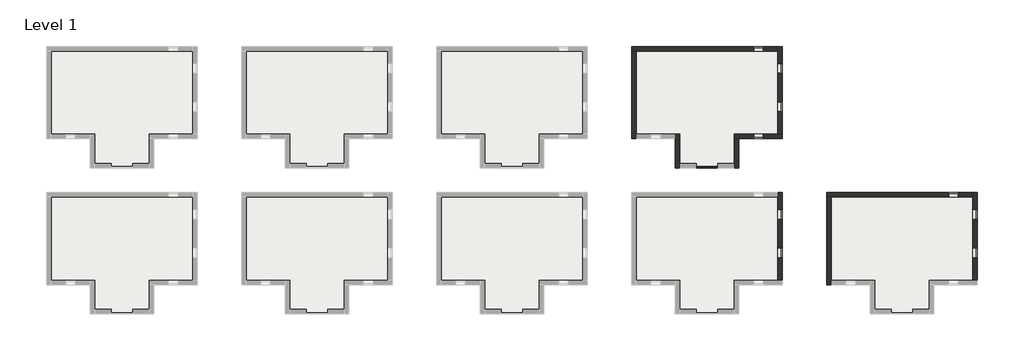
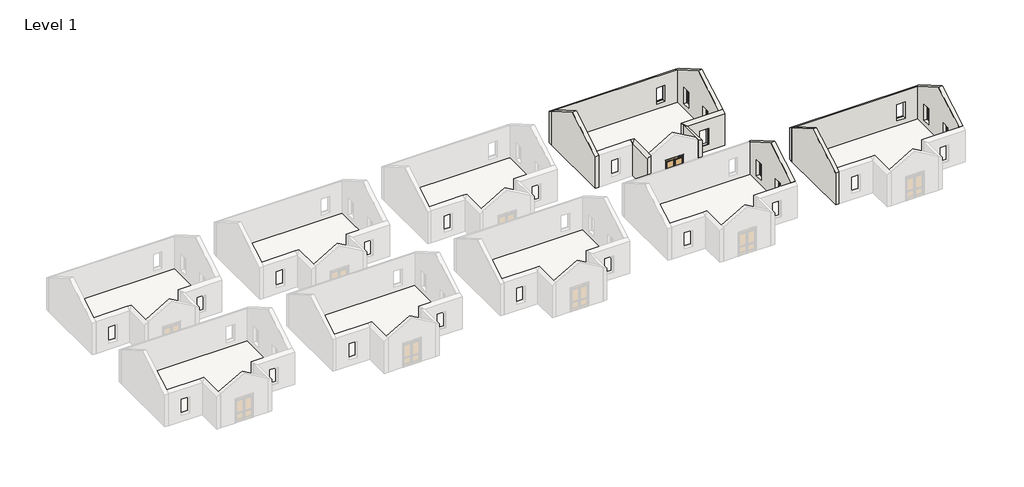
# One storey, part 4 of 4: 10 walls, 9 slabs, 1 door.
"""IFC4 building model written with IfcOpenShell, lengths in millimetres."""

from ifc_helpers import new_model, si_unit, origin, place, context, project, spatial, faceted_brep, transform, mapped, element, save
from components import non_impact_rated_medium_stile_77e616cb

model = new_model("IFC4")

# Units and contexts
model_context = context("Model", 3, world=origin())
ifc_project = project(units=[si_unit("LENGTHUNIT", "METRE", prefix="MILLI")], contexts=[model_context])

# Site, building, storey
site = spatial("IfcSite", under=ifc_project)
building = spatial("IfcBuilding", under=site)
storey = spatial("IfcBuildingStorey", under=building, Name="Level 1", Elevation=0.0)

# Door
placement = place(None, origin())
non_impact_rated_medium_stile_shape = non_impact_rated_medium_stile_77e616cb(model_context)
element("IfcDoor", 1, ObjectType="Door_Sliding_AssaAbloy_Resilience-R128-FBO-Single : Non Impact Rated - Medium Stile", at=placement, inside=storey, context=model_context, shape_type="MappedRepresentation", body=[
    mapped(non_impact_rated_medium_stile_shape, transform((39060.8760445, 8608.1209288, 0.0), x_axis=(1.0, 0.0, 0.0), y_axis=(0.0, 1.0, 0.0), z_axis=(0.0, 0.0, 1.0))),
])

# Slabs
element("IfcSlab", 2, ObjectType="Generic 150mm", at=placement, inside=storey, context=model_context, shape_type="Brep", body=[
    faceted_brep([(-11741.2332588, 4810.4798849, 0.0), (-11741.2332588, -4024.5201151, 0.0), (-11741.2332588, -4319.5201151, 0.0), (-16201.2332588, -4319.5201151, 0.0), (-16201.2332588, -4484.5201151, 0.0), (-16201.2332588, -7319.5201151, 0.0), (-22411.2332588, -7319.5201151, 0.0), (-22411.2332588, -4319.5201151, 0.0), (-26576.2332588, -4319.5201151, 0.0), (-26871.2332588, -4319.5201151, 0.0), (-26871.2332588, 4515.4798849, 0.0), (-26871.2332588, 4810.4798849, 0.0), (-12036.2332588, 4810.4798849, 0.0), (-11741.2332588, 4810.4798849, 150.0), (-12036.2332588, 4810.4798849, 150.0), (-26871.2332588, 4810.4798849, 150.0), (-26871.2332588, 4515.4798849, 150.0), (-26871.2332588, -4319.5201151, 150.0), (-26576.2332588, -4319.5201151, 150.0), (-22411.2332588, -4319.5201151, 150.0), (-22411.2332588, -7319.5201151, 150.0), (-16201.2332588, -7319.5201151, 150.0), (-16201.2332588, -4484.5201151, 150.0), (-16201.2332588, -4319.5201151, 150.0), (-11741.2332588, -4319.5201151, 150.0), (-11741.2332588, -4024.5201151, 150.0)], [[[0, 1, 2, 3, 4, 5, 6, 7, 8, 9, 10, 11, 12]], [[13, 14, 15, 16, 17, 18, 19, 20, 21, 22, 23, 24, 25]], [[2, 1, 0, 13, 25, 24]], [[3, 2, 24, 23]], [[11, 10, 9, 17, 16, 15]], [[0, 12, 11, 15, 14, 13]], [[5, 4, 3, 23, 22, 21]], [[6, 5, 21, 20]], [[7, 6, 20, 19]], [[9, 8, 7, 19, 18, 17]]]),
])
element("IfcSlab", 3, ObjectType="Generic 150mm", at=placement, inside=storey, context=model_context, shape_type="Brep", body=[
    faceted_brep([(8258.7667412, 4810.4798849, 0.0), (8258.7667412, -4024.5201151, 0.0), (8258.7667412, -4319.5201151, 0.0), (3798.7667412, -4319.5201151, 0.0), (3798.7667412, -4484.5201151, 0.0), (3798.7667412, -7319.5201151, 0.0), (-2411.2332588, -7319.5201151, 0.0), (-2411.2332588, -4319.5201151, 0.0), (-6576.2332588, -4319.5201151, 0.0), (-6871.2332588, -4319.5201151, 0.0), (-6871.2332588, 4515.4798849, 0.0), (-6871.2332588, 4810.4798849, 0.0), (7963.7667412, 4810.4798849, 0.0), (8258.7667412, 4810.4798849, 150.0), (7963.7667412, 4810.4798849, 150.0), (-6871.2332588, 4810.4798849, 150.0), (-6871.2332588, 4515.4798849, 150.0), (-6871.2332588, -4319.5201151, 150.0), (-6576.2332588, -4319.5201151, 150.0), (-2411.2332588, -4319.5201151, 150.0), (-2411.2332588, -7319.5201151, 150.0), (3798.7667412, -7319.5201151, 150.0), (3798.7667412, -4484.5201151, 150.0), (3798.7667412, -4319.5201151, 150.0), (8258.7667412, -4319.5201151, 150.0), (8258.7667412, -4024.5201151, 150.0)], [[[0, 1, 2, 3, 4, 5, 6, 7, 8, 9, 10, 11, 12]], [[13, 14, 15, 16, 17, 18, 19, 20, 21, 22, 23, 24, 25]], [[2, 1, 0, 13, 25, 24]], [[3, 2, 24, 23]], [[11, 10, 9, 17, 16, 15]], [[0, 12, 11, 15, 14, 13]], [[5, 4, 3, 23, 22, 21]], [[6, 5, 21, 20]], [[7, 6, 20, 19]], [[9, 8, 7, 19, 18, 17]]]),
])
element("IfcSlab", 4, ObjectType="Generic 150mm", at=placement, inside=storey, context=model_context, shape_type="Brep", body=[
    faceted_brep([(28258.7667412, 4810.4798849, 0.0), (28258.7667412, -4024.5201151, 0.0), (28258.7667412, -4319.5201151, 0.0), (23798.7667412, -4319.5201151, 0.0), (23798.7667412, -4484.5201151, 0.0), (23798.7667412, -7319.5201151, 0.0), (17588.7667412, -7319.5201151, 0.0), (17588.7667412, -4319.5201151, 0.0), (13423.7667412, -4319.5201151, 0.0), (13128.7667412, -4319.5201151, 0.0), (13128.7667412, 4515.4798849, 0.0), (13128.7667412, 4810.4798849, 0.0), (27963.7667412, 4810.4798849, 0.0), (28258.7667412, 4810.4798849, 150.0), (27963.7667412, 4810.4798849, 150.0), (13128.7667412, 4810.4798849, 150.0), (13128.7667412, 4515.4798849, 150.0), (13128.7667412, -4319.5201151, 150.0), (13423.7667412, -4319.5201151, 150.0), (17588.7667412, -4319.5201151, 150.0), (17588.7667412, -7319.5201151, 150.0), (23798.7667412, -7319.5201151, 150.0), (23798.7667412, -4484.5201151, 150.0), (23798.7667412, -4319.5201151, 150.0), (28258.7667412, -4319.5201151, 150.0), (28258.7667412, -4024.5201151, 150.0)], [[[0, 1, 2, 3, 4, 5, 6, 7, 8, 9, 10, 11, 12]], [[13, 14, 15, 16, 17, 18, 19, 20, 21, 22, 23, 24, 25]], [[2, 1, 0, 13, 25, 24]], [[3, 2, 24, 23]], [[11, 10, 9, 17, 16, 15]], [[0, 12, 11, 15, 14, 13]], [[5, 4, 3, 23, 22, 21]], [[6, 5, 21, 20]], [[7, 6, 20, 19]], [[9, 8, 7, 19, 18, 17]]]),
])
element("IfcSlab", 5, ObjectType="Generic 150mm", at=placement, inside=storey, context=model_context, shape_type="Brep", body=[
    faceted_brep([(48258.7667412, 4810.4798849, 0.0), (48258.7667412, -4024.5201151, 0.0), (48258.7667412, -4319.5201151, 0.0), (43798.7667412, -4319.5201151, 0.0), (43798.7667412, -4484.5201151, 0.0), (43798.7667412, -7319.5201151, 0.0), (37588.7667412, -7319.5201151, 0.0), (37588.7667412, -4319.5201151, 0.0), (33423.7667412, -4319.5201151, 0.0), (33128.7667412, -4319.5201151, 0.0), (33128.7667412, 4515.4798849, 0.0), (33128.7667412, 4810.4798849, 0.0), (47963.7667412, 4810.4798849, 0.0), (48258.7667412, 4810.4798849, 150.0), (47963.7667412, 4810.4798849, 150.0), (33128.7667412, 4810.4798849, 150.0), (33128.7667412, 4515.4798849, 150.0), (33128.7667412, -4319.5201151, 150.0), (33423.7667412, -4319.5201151, 150.0), (37588.7667412, -4319.5201151, 150.0), (37588.7667412, -7319.5201151, 150.0), (43798.7667412, -7319.5201151, 150.0), (43798.7667412, -4484.5201151, 150.0), (43798.7667412, -4319.5201151, 150.0), (48258.7667412, -4319.5201151, 150.0), (48258.7667412, -4024.5201151, 150.0)], [[[0, 1, 2, 3, 4, 5, 6, 7, 8, 9, 10, 11, 12]], [[13, 14, 15, 16, 17, 18, 19, 20, 21, 22, 23, 24, 25]], [[2, 1, 0, 13, 25, 24]], [[3, 2, 24, 23]], [[11, 10, 9, 17, 16, 15]], [[0, 12, 11, 15, 14, 13]], [[5, 4, 3, 23, 22, 21]], [[6, 5, 21, 20]], [[7, 6, 20, 19]], [[9, 8, 7, 19, 18, 17]]]),
])
element("IfcSlab", 6, ObjectType="Generic 150mm", at=placement, inside=storey, context=model_context, shape_type="Brep", body=[
    faceted_brep([(68258.7667412, 4810.4798849, 0.0), (68258.7667412, -4024.5201151, 0.0), (68258.7667412, -4319.5201151, 0.0), (63798.7667412, -4319.5201151, 0.0), (63798.7667412, -4484.5201151, 0.0), (63798.7667412, -7319.5201151, 0.0), (57588.7667412, -7319.5201151, 0.0), (57588.7667412, -4319.5201151, 0.0), (53423.7667412, -4319.5201151, 0.0), (53128.7667412, -4319.5201151, 0.0), (53128.7667412, 4515.4798849, 0.0), (53128.7667412, 4810.4798849, 0.0), (67963.7667412, 4810.4798849, 0.0), (68258.7667412, 4810.4798849, 150.0), (67963.7667412, 4810.4798849, 150.0), (53128.7667412, 4810.4798849, 150.0), (53128.7667412, 4515.4798849, 150.0), (53128.7667412, -4319.5201151, 150.0), (53423.7667412, -4319.5201151, 150.0), (57588.7667412, -4319.5201151, 150.0), (57588.7667412, -7319.5201151, 150.0), (63798.7667412, -7319.5201151, 150.0), (63798.7667412, -4484.5201151, 150.0), (63798.7667412, -4319.5201151, 150.0), (68258.7667412, -4319.5201151, 150.0), (68258.7667412, -4024.5201151, 150.0)], [[[0, 1, 2, 3, 4, 5, 6, 7, 8, 9, 10, 11, 12]], [[13, 14, 15, 16, 17, 18, 19, 20, 21, 22, 23, 24, 25]], [[2, 1, 0, 13, 25, 24]], [[3, 2, 24, 23]], [[11, 10, 9, 17, 16, 15]], [[0, 12, 11, 15, 14, 13]], [[5, 4, 3, 23, 22, 21]], [[6, 5, 21, 20]], [[7, 6, 20, 19]], [[9, 8, 7, 19, 18, 17]]]),
])
element("IfcSlab", 7, ObjectType="Generic 150mm", at=placement, inside=storey, context=model_context, shape_type="Brep", body=[
    faceted_brep([(-11741.2332588, 19810.4798849, 0.0), (-11741.2332588, 10975.4798849, 0.0), (-11741.2332588, 10680.4798849, 0.0), (-16201.2332588, 10680.4798849, 0.0), (-16201.2332588, 10515.4798849, 0.0), (-16201.2332588, 7680.4798849, 0.0), (-22411.2332588, 7680.4798849, 0.0), (-22411.2332588, 10680.4798849, 0.0), (-26576.2332588, 10680.4798849, 0.0), (-26871.2332588, 10680.4798849, 0.0), (-26871.2332588, 19515.4798849, 0.0), (-26871.2332588, 19810.4798849, 0.0), (-12036.2332588, 19810.4798849, 0.0), (-11741.2332588, 19810.4798849, 150.0), (-12036.2332588, 19810.4798849, 150.0), (-26871.2332588, 19810.4798849, 150.0), (-26871.2332588, 19515.4798849, 150.0), (-26871.2332588, 10680.4798849, 150.0), (-26576.2332588, 10680.4798849, 150.0), (-22411.2332588, 10680.4798849, 150.0), (-22411.2332588, 7680.4798849, 150.0), (-16201.2332588, 7680.4798849, 150.0), (-16201.2332588, 10515.4798849, 150.0), (-16201.2332588, 10680.4798849, 150.0), (-11741.2332588, 10680.4798849, 150.0), (-11741.2332588, 10975.4798849, 150.0)], [[[0, 1, 2, 3, 4, 5, 6, 7, 8, 9, 10, 11, 12]], [[13, 14, 15, 16, 17, 18, 19, 20, 21, 22, 23, 24, 25]], [[2, 1, 0, 13, 25, 24]], [[3, 2, 24, 23]], [[11, 10, 9, 17, 16, 15]], [[0, 12, 11, 15, 14, 13]], [[5, 4, 3, 23, 22, 21]], [[6, 5, 21, 20]], [[7, 6, 20, 19]], [[9, 8, 7, 19, 18, 17]]]),
])
element("IfcSlab", 8, ObjectType="Generic 150mm", at=placement, inside=storey, context=model_context, shape_type="Brep", body=[
    faceted_brep([(8258.7667412, 19810.4798849, 0.0), (8258.7667412, 10975.4798849, 0.0), (8258.7667412, 10680.4798849, 0.0), (3798.7667412, 10680.4798849, 0.0), (3798.7667412, 10515.4798849, 0.0), (3798.7667412, 7680.4798849, 0.0), (-2411.2332588, 7680.4798849, 0.0), (-2411.2332588, 10680.4798849, 0.0), (-6576.2332588, 10680.4798849, 0.0), (-6871.2332588, 10680.4798849, 0.0), (-6871.2332588, 19515.4798849, 0.0), (-6871.2332588, 19810.4798849, 0.0), (7963.7667412, 19810.4798849, 0.0), (8258.7667412, 19810.4798849, 150.0), (7963.7667412, 19810.4798849, 150.0), (-6871.2332588, 19810.4798849, 150.0), (-6871.2332588, 19515.4798849, 150.0), (-6871.2332588, 10680.4798849, 150.0), (-6576.2332588, 10680.4798849, 150.0), (-2411.2332588, 10680.4798849, 150.0), (-2411.2332588, 7680.4798849, 150.0), (3798.7667412, 7680.4798849, 150.0), (3798.7667412, 10515.4798849, 150.0), (3798.7667412, 10680.4798849, 150.0), (8258.7667412, 10680.4798849, 150.0), (8258.7667412, 10975.4798849, 150.0)], [[[0, 1, 2, 3, 4, 5, 6, 7, 8, 9, 10, 11, 12]], [[13, 14, 15, 16, 17, 18, 19, 20, 21, 22, 23, 24, 25]], [[2, 1, 0, 13, 25, 24]], [[3, 2, 24, 23]], [[11, 10, 9, 17, 16, 15]], [[0, 12, 11, 15, 14, 13]], [[5, 4, 3, 23, 22, 21]], [[6, 5, 21, 20]], [[7, 6, 20, 19]], [[9, 8, 7, 19, 18, 17]]]),
])
element("IfcSlab", 9, ObjectType="Generic 150mm", at=placement, inside=storey, context=model_context, shape_type="Brep", body=[
    faceted_brep([(28258.7667412, 19810.4798849, 0.0), (28258.7667412, 10975.4798849, 0.0), (28258.7667412, 10680.4798849, 0.0), (23798.7667412, 10680.4798849, 0.0), (23798.7667412, 10515.4798849, 0.0), (23798.7667412, 7680.4798849, 0.0), (17588.7667412, 7680.4798849, 0.0), (17588.7667412, 10680.4798849, 0.0), (13423.7667412, 10680.4798849, 0.0), (13128.7667412, 10680.4798849, 0.0), (13128.7667412, 19515.4798849, 0.0), (13128.7667412, 19810.4798849, 0.0), (27963.7667412, 19810.4798849, 0.0), (28258.7667412, 19810.4798849, 150.0), (27963.7667412, 19810.4798849, 150.0), (13128.7667412, 19810.4798849, 150.0), (13128.7667412, 19515.4798849, 150.0), (13128.7667412, 10680.4798849, 150.0), (13423.7667412, 10680.4798849, 150.0), (17588.7667412, 10680.4798849, 150.0), (17588.7667412, 7680.4798849, 150.0), (23798.7667412, 7680.4798849, 150.0), (23798.7667412, 10515.4798849, 150.0), (23798.7667412, 10680.4798849, 150.0), (28258.7667412, 10680.4798849, 150.0), (28258.7667412, 10975.4798849, 150.0)], [[[0, 1, 2, 3, 4, 5, 6, 7, 8, 9, 10, 11, 12]], [[13, 14, 15, 16, 17, 18, 19, 20, 21, 22, 23, 24, 25]], [[2, 1, 0, 13, 25, 24]], [[3, 2, 24, 23]], [[11, 10, 9, 17, 16, 15]], [[0, 12, 11, 15, 14, 13]], [[5, 4, 3, 23, 22, 21]], [[6, 5, 21, 20]], [[7, 6, 20, 19]], [[9, 8, 7, 19, 18, 17]]]),
])
element("IfcSlab", 10, ObjectType="Generic 150mm", at=placement, inside=storey, context=model_context, shape_type="Brep", body=[
    faceted_brep([(48258.7667412, 19810.4798849, 0.0), (48258.7667412, 10975.4798849, 0.0), (48258.7667412, 10680.4798849, 0.0), (43798.7667412, 10680.4798849, 0.0), (43798.7667412, 10515.4798849, 0.0), (43798.7667412, 7680.4798849, 0.0), (37588.7667412, 7680.4798849, 0.0), (37588.7667412, 10680.4798849, 0.0), (33423.7667412, 10680.4798849, 0.0), (33128.7667412, 10680.4798849, 0.0), (33128.7667412, 19515.4798849, 0.0), (33128.7667412, 19810.4798849, 0.0), (47963.7667412, 19810.4798849, 0.0), (48258.7667412, 19810.4798849, 150.0), (47963.7667412, 19810.4798849, 150.0), (33128.7667412, 19810.4798849, 150.0), (33128.7667412, 19515.4798849, 150.0), (33128.7667412, 10680.4798849, 150.0), (33423.7667412, 10680.4798849, 150.0), (37588.7667412, 10680.4798849, 150.0), (37588.7667412, 7680.4798849, 150.0), (43798.7667412, 7680.4798849, 150.0), (43798.7667412, 10515.4798849, 150.0), (43798.7667412, 10680.4798849, 150.0), (48258.7667412, 10680.4798849, 150.0), (48258.7667412, 10975.4798849, 150.0)], [[[0, 1, 2, 3, 4, 5, 6, 7, 8, 9, 10, 11, 12]], [[13, 14, 15, 16, 17, 18, 19, 20, 21, 22, 23, 24, 25]], [[2, 1, 0, 13, 25, 24]], [[3, 2, 24, 23]], [[11, 10, 9, 17, 16, 15]], [[0, 12, 11, 15, 14, 13]], [[5, 4, 3, 23, 22, 21]], [[6, 5, 21, 20]], [[7, 6, 20, 19]], [[9, 8, 7, 19, 18, 17]]]),
])

# Walls
element("IfcWall", 11, ObjectType="Exterior - Block on Mtl. Stud", at=placement, inside=storey, context=model_context, shape_type="Brep", body=[
    faceted_brep([(47963.7667412, 4975.4798849, 4000.0), (47963.7667412, 4975.4798849, 0.0), (47963.7667412, 4810.4798849, 0.0), (47963.7667412, 4810.4798849, 150.0), (47963.7667412, 4515.4798849, 150.0), (47963.7667412, -4024.5201151, 150.0), (47963.7667412, -4024.5201151, 4265.5811238), (47963.7667412, 245.4798849, 6730.8667733), (47963.7667412, 4515.4798849, 4265.5811238), (47963.7667412, -724.5201151, 2800.0), (47963.7667412, -1724.5201151, 2800.0), (47963.7667412, -1724.5201151, 770.0), (47963.7667412, -724.5201151, 770.0), (47963.7667412, 3215.4798849, 2800.0), (47963.7667412, 2215.4798849, 2800.0), (47963.7667412, 2215.4798849, 770.0), (47963.7667412, 3215.4798849, 770.0), (48423.7667412, -4024.5201151, 0.0), (48423.7667412, 4975.4798849, 0.0), (48423.7667412, 4975.4798849, 4000.0), (48423.7667412, 245.4798849, 6730.8667733), (48423.7667412, -4024.5201151, 4265.5811238), (48423.7667412, -1743.5194771, 2832.0), (48423.7667412, -705.5207531, 2832.0), (48423.7667412, -705.5207531, 800.0), (48423.7667412, -1743.5194771, 800.0), (48423.7667412, 2196.4805229, 2832.0), (48423.7667412, 3234.4792469, 2832.0), (48423.7667412, 3234.4792469, 800.0), (48423.7667412, 2196.4805229, 800.0), (48258.7667412, -4024.5201151, 0.0), (48258.7667412, 4810.4798849, 0.0), (48258.7667412, -4024.5201151, 150.0), (48303.7667412, -724.5201151, 2800.0), (48303.7667412, -1724.5201151, 2800.0), (48323.7667412, -1724.5201151, 770.0), (48323.7667412, -724.5201151, 770.0), (48303.7667412, -1724.5201151, 800.0), (48323.7667412, -1724.5201151, 800.0), (48323.7667412, -724.5201151, 800.0), (48303.7667412, -724.5201151, 800.0), (48303.7667412, -692.5201151, 2832.0), (48316.7667412, -692.5201151, 2832.0), (48316.7667412, -705.5207531, 2832.0), (48316.7667412, -1743.5194771, 2832.0), (48316.7667412, -1756.5201151, 2832.0), (48303.7667412, -1756.5201151, 2832.0), (48303.7667412, -1756.5201151, 800.0), (48316.7667412, -1756.5201151, 800.0), (48316.7667412, -1743.5194771, 800.0), (48316.7667412, -705.5207531, 800.0), (48316.7667412, -692.5201151, 800.0), (48303.7667412, -692.5201151, 800.0), (48303.7667412, 3215.4798849, 2800.0), (48303.7667412, 2215.4798849, 2800.0), (48323.7667412, 2215.4798849, 770.0), (48323.7667412, 3215.4798849, 770.0), (48303.7667412, 2215.4798849, 800.0), (48323.7667412, 2215.4798849, 800.0), (48323.7667412, 3215.4798849, 800.0), (48303.7667412, 3215.4798849, 800.0), (48303.7667412, 3247.4798849, 2832.0), (48316.7667412, 3247.4798849, 2832.0), (48316.7667412, 3234.4792469, 2832.0), (48316.7667412, 2196.4805229, 2832.0), (48316.7667412, 2183.4798849, 2832.0), (48303.7667412, 2183.4798849, 2832.0), (48303.7667412, 2183.4798849, 800.0), (48316.7667412, 2183.4798849, 800.0), (48316.7667412, 2196.4805229, 800.0), (48316.7667412, 3234.4792469, 800.0), (48316.7667412, 3247.4798849, 800.0), (48303.7667412, 3247.4798849, 800.0), (48258.7667412, 4810.4798849, 150.0)], [[[0, 1, 2, 3, 4, 5, 6, 7, 8], [9, 10, 11, 12], [13, 14, 15, 16]], [[17, 18, 19, 20, 21], [22, 23, 24, 25], [26, 27, 28, 29]], [[18, 17, 30, 31, 2, 1]], [[1, 0, 19, 18]], [[17, 21, 6, 5, 32, 30]], [[10, 9, 33, 34]], [[11, 35, 36, 12]], [[10, 34, 37, 38, 35, 11]], [[36, 35, 38, 39]], [[33, 9, 12, 36, 39, 40]], [[41, 42, 43, 23, 22, 44, 45, 46]], [[38, 37, 47, 48, 49, 25, 24, 50, 51, 52, 40, 39]], [[34, 33, 40, 52, 41, 46, 47, 37]], [[46, 45, 48, 47]], [[42, 41, 52, 51]], [[45, 44, 49, 48]], [[44, 22, 25, 49]], [[23, 43, 50, 24]], [[43, 42, 51, 50]], [[14, 13, 53, 54]], [[15, 55, 56, 16]], [[14, 54, 57, 58, 55, 15]], [[56, 55, 58, 59]], [[53, 13, 16, 56, 59, 60]], [[61, 62, 63, 27, 26, 64, 65, 66]], [[58, 57, 67, 68, 69, 29, 28, 70, 71, 72, 60, 59]], [[54, 53, 60, 72, 61, 66, 67, 57]], [[66, 65, 68, 67]], [[62, 61, 72, 71]], [[65, 64, 69, 68]], [[64, 26, 29, 69]], [[27, 63, 70, 28]], [[63, 62, 71, 70]], [[73, 32, 5, 4, 3]], [[73, 31, 30, 32]], [[31, 73, 3, 2]], [[19, 0, 8, 7, 20]], [[6, 21, 20, 7]]]),
])
element("IfcWall", 12, ObjectType="Exterior - Block on Mtl. Stud", at=placement, inside=storey, context=model_context, shape_type="Brep", body=[
    faceted_brep([(52963.7667412, 4515.4798849, 4265.5811238), (52963.7667412, 4515.4798849, 0.0), (53128.7667412, 4515.4798849, 0.0), (53128.7667412, 4515.4798849, 150.0), (53423.7667412, 4515.4798849, 150.0), (67963.7667412, 4515.4798849, 150.0), (67963.7667412, 4515.4798849, 4265.5811238), (53423.7667412, 4515.4798849, 4265.5811238), (65463.7667412, 4515.4798849, 2800.0), (66463.7667412, 4515.4798849, 2800.0), (66463.7667412, 4515.4798849, 770.0), (65463.7667412, 4515.4798849, 770.0), (67963.7667412, 4975.4798849, 0.0), (52963.7667412, 4975.4798849, 0.0), (52963.7667412, 4975.4798849, 4000.0), (67963.7667412, 4975.4798849, 4000.0), (66482.7661032, 4975.4798849, 2832.0), (65444.7673792, 4975.4798849, 2832.0), (65444.7673792, 4975.4798849, 800.0), (66482.7661032, 4975.4798849, 800.0), (67963.7667412, 4810.4798849, 0.0), (53128.7667412, 4810.4798849, 0.0), (67963.7667412, 4810.4798849, 150.0), (65463.7667412, 4855.4798849, 2800.0), (66463.7667412, 4855.4798849, 2800.0), (66463.7667412, 4875.4798849, 770.0), (65463.7667412, 4875.4798849, 770.0), (66463.7667412, 4855.4798849, 800.0), (66463.7667412, 4875.4798849, 800.0), (65463.7667412, 4875.4798849, 800.0), (65463.7667412, 4855.4798849, 800.0), (65431.7667412, 4855.4798849, 2832.0), (65431.7667412, 4868.4798849, 2832.0), (65444.7673792, 4868.4798849, 2832.0), (66482.7661032, 4868.4798849, 2832.0), (66495.7667412, 4868.4798849, 2832.0), (66495.7667412, 4855.4798849, 2832.0), (66495.7667412, 4855.4798849, 800.0), (66495.7667412, 4868.4798849, 800.0), (66482.7661032, 4868.4798849, 800.0), (65444.7673792, 4868.4798849, 800.0), (65431.7667412, 4868.4798849, 800.0), (65431.7667412, 4855.4798849, 800.0), (53128.7667412, 4810.4798849, 150.0)], [[[0, 1, 2, 3, 4, 5, 6, 7], [8, 9, 10, 11]], [[12, 13, 14, 15], [16, 17, 18, 19]], [[13, 12, 20, 21, 2, 1]], [[1, 0, 14, 13]], [[12, 15, 6, 5, 22, 20]], [[9, 8, 23, 24]], [[10, 25, 26, 11]], [[9, 24, 27, 28, 25, 10]], [[26, 25, 28, 29]], [[23, 8, 11, 26, 29, 30]], [[31, 32, 33, 17, 16, 34, 35, 36]], [[28, 27, 37, 38, 39, 19, 18, 40, 41, 42, 30, 29]], [[24, 23, 30, 42, 31, 36, 37, 27]], [[36, 35, 38, 37]], [[32, 31, 42, 41]], [[35, 34, 39, 38]], [[34, 16, 19, 39]], [[17, 33, 40, 18]], [[33, 32, 41, 40]], [[3, 43, 22, 5, 4]], [[21, 43, 3, 2]], [[43, 21, 20, 22]], [[0, 7, 6, 15, 14]]]),
])
element("IfcWall", 13, ObjectType="Exterior - Block on Mtl. Stud", at=placement, inside=storey, context=model_context, shape_type="Brep", body=[
    faceted_brep([(53423.7667412, -4484.5201151, 4000.0), (53423.7667412, -4484.5201151, 0.0), (53423.7667412, -4319.5201151, 0.0), (53423.7667412, -4319.5201151, 150.0), (53423.7667412, 4515.4798849, 150.0), (53423.7667412, 4515.4798849, 4265.5811238), (53423.7667412, 245.4798849, 6730.8667733), (53423.7667412, -4024.5201151, 4265.5811238), (52963.7667412, 4515.4798849, 0.0), (52963.7667412, -4484.5201151, 0.0), (52963.7667412, -4484.5201151, 4000.0), (52963.7667412, 245.4798849, 6730.8667733), (52963.7667412, 4515.4798849, 4265.5811238), (53128.7667412, 4515.4798849, 0.0), (53128.7667412, -4319.5201151, 0.0), (53128.7667412, 4515.4798849, 150.0), (53128.7667412, -4319.5201151, 150.0)], [[[0, 1, 2, 3, 4, 5, 6, 7]], [[8, 9, 10, 11, 12]], [[9, 8, 13, 14, 2, 1]], [[1, 0, 10, 9]], [[8, 12, 5, 4, 15, 13]], [[3, 16, 15, 4]], [[16, 14, 13, 15]], [[14, 16, 3, 2]], [[10, 0, 7, 6, 11]], [[5, 12, 11, 6]]]),
])
element("IfcWall", 14, ObjectType="Exterior - Block on Mtl. Stud", at=placement, inside=storey, context=model_context, shape_type="Brep", body=[
    faceted_brep([(67963.7667412, 4975.4798849, 4000.0), (67963.7667412, 4975.4798849, 0.0), (67963.7667412, 4810.4798849, 0.0), (67963.7667412, 4810.4798849, 150.0), (67963.7667412, 4515.4798849, 150.0), (67963.7667412, -4024.5201151, 150.0), (67963.7667412, -4024.5201151, 4265.5811238), (67963.7667412, 245.4798849, 6730.8667733), (67963.7667412, 4515.4798849, 4265.5811238), (67963.7667412, -724.5201151, 2800.0), (67963.7667412, -1724.5201151, 2800.0), (67963.7667412, -1724.5201151, 770.0), (67963.7667412, -724.5201151, 770.0), (67963.7667412, 3215.4798849, 2800.0), (67963.7667412, 2215.4798849, 2800.0), (67963.7667412, 2215.4798849, 770.0), (67963.7667412, 3215.4798849, 770.0), (68423.7667412, -4024.5201151, 0.0), (68423.7667412, 4975.4798849, 0.0), (68423.7667412, 4975.4798849, 4000.0), (68423.7667412, 245.4798849, 6730.8667733), (68423.7667412, -4024.5201151, 4265.5811238), (68423.7667412, -1743.5194771, 2832.0), (68423.7667412, -705.5207531, 2832.0), (68423.7667412, -705.5207531, 800.0), (68423.7667412, -1743.5194771, 800.0), (68423.7667412, 2196.4805229, 2832.0), (68423.7667412, 3234.4792469, 2832.0), (68423.7667412, 3234.4792469, 800.0), (68423.7667412, 2196.4805229, 800.0), (68258.7667412, -4024.5201151, 0.0), (68258.7667412, 4810.4798849, 0.0), (68258.7667412, -4024.5201151, 150.0), (68303.7667412, -724.5201151, 2800.0), (68303.7667412, -1724.5201151, 2800.0), (68323.7667412, -1724.5201151, 770.0), (68323.7667412, -724.5201151, 770.0), (68303.7667412, -1724.5201151, 800.0), (68323.7667412, -1724.5201151, 800.0), (68323.7667412, -724.5201151, 800.0), (68303.7667412, -724.5201151, 800.0), (68303.7667412, -692.5201151, 2832.0), (68316.7667412, -692.5201151, 2832.0), (68316.7667412, -705.5207531, 2832.0), (68316.7667412, -1743.5194771, 2832.0), (68316.7667412, -1756.5201151, 2832.0), (68303.7667412, -1756.5201151, 2832.0), (68303.7667412, -1756.5201151, 800.0), (68316.7667412, -1756.5201151, 800.0), (68316.7667412, -1743.5194771, 800.0), (68316.7667412, -705.5207531, 800.0), (68316.7667412, -692.5201151, 800.0), (68303.7667412, -692.5201151, 800.0), (68303.7667412, 3215.4798849, 2800.0), (68303.7667412, 2215.4798849, 2800.0), (68323.7667412, 2215.4798849, 770.0), (68323.7667412, 3215.4798849, 770.0), (68303.7667412, 2215.4798849, 800.0), (68323.7667412, 2215.4798849, 800.0), (68323.7667412, 3215.4798849, 800.0), (68303.7667412, 3215.4798849, 800.0), (68303.7667412, 3247.4798849, 2832.0), (68316.7667412, 3247.4798849, 2832.0), (68316.7667412, 3234.4792469, 2832.0), (68316.7667412, 2196.4805229, 2832.0), (68316.7667412, 2183.4798849, 2832.0), (68303.7667412, 2183.4798849, 2832.0), (68303.7667412, 2183.4798849, 800.0), (68316.7667412, 2183.4798849, 800.0), (68316.7667412, 2196.4805229, 800.0), (68316.7667412, 3234.4792469, 800.0), (68316.7667412, 3247.4798849, 800.0), (68303.7667412, 3247.4798849, 800.0), (68258.7667412, 4810.4798849, 150.0)], [[[0, 1, 2, 3, 4, 5, 6, 7, 8], [9, 10, 11, 12], [13, 14, 15, 16]], [[17, 18, 19, 20, 21], [22, 23, 24, 25], [26, 27, 28, 29]], [[18, 17, 30, 31, 2, 1]], [[1, 0, 19, 18]], [[17, 21, 6, 5, 32, 30]], [[10, 9, 33, 34]], [[11, 35, 36, 12]], [[10, 34, 37, 38, 35, 11]], [[36, 35, 38, 39]], [[33, 9, 12, 36, 39, 40]], [[41, 42, 43, 23, 22, 44, 45, 46]], [[38, 37, 47, 48, 49, 25, 24, 50, 51, 52, 40, 39]], [[34, 33, 40, 52, 41, 46, 47, 37]], [[46, 45, 48, 47]], [[42, 41, 52, 51]], [[45, 44, 49, 48]], [[44, 22, 25, 49]], [[23, 43, 50, 24]], [[43, 42, 51, 50]], [[14, 13, 53, 54]], [[15, 55, 56, 16]], [[14, 54, 57, 58, 55, 15]], [[56, 55, 58, 59]], [[53, 13, 16, 56, 59, 60]], [[61, 62, 63, 27, 26, 64, 65, 66]], [[58, 57, 67, 68, 69, 29, 28, 70, 71, 72, 60, 59]], [[54, 53, 60, 72, 61, 66, 67, 57]], [[66, 65, 68, 67]], [[62, 61, 72, 71]], [[65, 64, 69, 68]], [[64, 26, 29, 69]], [[27, 63, 70, 28]], [[63, 62, 71, 70]], [[73, 32, 5, 4, 3]], [[73, 31, 30, 32]], [[31, 73, 3, 2]], [[19, 0, 8, 7, 20]], [[6, 21, 20, 7]]]),
])
element("IfcWall", 15, ObjectType="Exterior - Block on Mtl. Stud", at=placement, inside=storey, context=model_context, shape_type="Brep", body=[
    faceted_brep([(32963.7667412, 19515.4798849, 4265.5811238), (32963.7667412, 19515.4798849, 0.0), (33128.7667412, 19515.4798849, 0.0), (33128.7667412, 19515.4798849, 150.0), (33423.7667412, 19515.4798849, 150.0), (47963.7667412, 19515.4798849, 150.0), (47963.7667412, 19515.4798849, 4265.5811238), (33423.7667412, 19515.4798849, 4265.5811238), (45463.7667412, 19515.4798849, 2800.0), (46463.7667412, 19515.4798849, 2800.0), (46463.7667412, 19515.4798849, 770.0), (45463.7667412, 19515.4798849, 770.0), (47963.7667412, 19975.4798849, 0.0), (32963.7667412, 19975.4798849, 0.0), (32963.7667412, 19975.4798849, 4000.0), (47963.7667412, 19975.4798849, 4000.0), (46482.7661032, 19975.4798849, 2832.0), (45444.7673792, 19975.4798849, 2832.0), (45444.7673792, 19975.4798849, 800.0), (46482.7661032, 19975.4798849, 800.0), (47963.7667412, 19810.4798849, 0.0), (33128.7667412, 19810.4798849, 0.0), (47963.7667412, 19810.4798849, 150.0), (45463.7667412, 19855.4798849, 2800.0), (46463.7667412, 19855.4798849, 2800.0), (46463.7667412, 19875.4798849, 770.0), (45463.7667412, 19875.4798849, 770.0), (46463.7667412, 19855.4798849, 800.0), (46463.7667412, 19875.4798849, 800.0), (45463.7667412, 19875.4798849, 800.0), (45463.7667412, 19855.4798849, 800.0), (45431.7667412, 19855.4798849, 2832.0), (45431.7667412, 19868.4798849, 2832.0), (45444.7673792, 19868.4798849, 2832.0), (46482.7661032, 19868.4798849, 2832.0), (46495.7667412, 19868.4798849, 2832.0), (46495.7667412, 19855.4798849, 2832.0), (46495.7667412, 19855.4798849, 800.0), (46495.7667412, 19868.4798849, 800.0), (46482.7661032, 19868.4798849, 800.0), (45444.7673792, 19868.4798849, 800.0), (45431.7667412, 19868.4798849, 800.0), (45431.7667412, 19855.4798849, 800.0), (33128.7667412, 19810.4798849, 150.0)], [[[0, 1, 2, 3, 4, 5, 6, 7], [8, 9, 10, 11]], [[12, 13, 14, 15], [16, 17, 18, 19]], [[13, 12, 20, 21, 2, 1]], [[1, 0, 14, 13]], [[12, 15, 6, 5, 22, 20]], [[9, 8, 23, 24]], [[10, 25, 26, 11]], [[9, 24, 27, 28, 25, 10]], [[26, 25, 28, 29]], [[23, 8, 11, 26, 29, 30]], [[31, 32, 33, 17, 16, 34, 35, 36]], [[28, 27, 37, 38, 39, 19, 18, 40, 41, 42, 30, 29]], [[24, 23, 30, 42, 31, 36, 37, 27]], [[36, 35, 38, 37]], [[32, 31, 42, 41]], [[35, 34, 39, 38]], [[34, 16, 19, 39]], [[17, 33, 40, 18]], [[33, 32, 41, 40]], [[3, 43, 22, 5, 4]], [[21, 43, 3, 2]], [[43, 21, 20, 22]], [[0, 7, 6, 15, 14]]]),
])
element("IfcWall", 16, ObjectType="Exterior - Block on Mtl. Stud", at=placement, inside=storey, context=model_context, shape_type="Brep", body=[
    faceted_brep([(33423.7667412, 10515.4798849, 4000.0), (33423.7667412, 10515.4798849, 0.0), (33423.7667412, 10680.4798849, 0.0), (33423.7667412, 10680.4798849, 150.0), (33423.7667412, 19515.4798849, 150.0), (33423.7667412, 19515.4798849, 4265.5811238), (33423.7667412, 15245.4798849, 6730.8667733), (33423.7667412, 10975.4798849, 4265.5811238), (32963.7667412, 19515.4798849, 0.0), (32963.7667412, 10515.4798849, 0.0), (32963.7667412, 10515.4798849, 4000.0), (32963.7667412, 15245.4798849, 6730.8667733), (32963.7667412, 19515.4798849, 4265.5811238), (33128.7667412, 19515.4798849, 0.0), (33128.7667412, 10680.4798849, 0.0), (33128.7667412, 19515.4798849, 150.0), (33128.7667412, 10680.4798849, 150.0)], [[[0, 1, 2, 3, 4, 5, 6, 7]], [[8, 9, 10, 11, 12]], [[9, 8, 13, 14, 2, 1]], [[1, 0, 10, 9]], [[8, 12, 5, 4, 15, 13]], [[3, 16, 15, 4]], [[16, 14, 13, 15]], [[14, 16, 3, 2]], [[10, 0, 7, 6, 11]], [[5, 12, 11, 6]]]),
])
element("IfcWall", 17, ObjectType="Exterior - Block on Mtl. Stud", at=placement, inside=storey, context=model_context, shape_type="Brep", body=[
    faceted_brep([(48423.7667412, 10975.4798849, 4265.5811238), (48423.7667412, 10975.4798849, 0.0), (48258.7667412, 10975.4798849, 0.0), (48258.7667412, 10975.4798849, 150.0), (47963.7667412, 10975.4798849, 150.0), (43503.7667412, 10975.4798849, 150.0), (43503.7667412, 10975.4798849, 4265.5811238), (47963.7667412, 10975.4798849, 4265.5811238), (46463.7667412, 10975.4798849, 2800.0), (45463.7667412, 10975.4798849, 2800.0), (45463.7667412, 10975.4798849, 770.0), (46463.7667412, 10975.4798849, 770.0), (48423.7667412, 10515.4798849, 0.0), (48423.7667412, 10515.4798849, 4000.0), (43963.7667412, 10515.4798849, 4000.0), (43503.7667412, 10515.4798849, 4265.5811238), (43503.7667412, 10515.4798849, 150.0), (43798.7667412, 10515.4798849, 150.0), (43798.7667412, 10515.4798849, 0.0), (43963.7667412, 10515.4798849, 0.0), (45444.7673792, 10515.4798849, 2832.0), (46482.7661032, 10515.4798849, 2832.0), (46482.7661032, 10515.4798849, 800.0), (45444.7673792, 10515.4798849, 800.0), (43798.7667412, 10680.4798849, 0.0), (48258.7667412, 10680.4798849, 0.0), (46463.7667412, 10635.4798849, 2800.0), (45463.7667412, 10635.4798849, 2800.0), (45463.7667412, 10615.4798849, 770.0), (46463.7667412, 10615.4798849, 770.0), (45463.7667412, 10635.4798849, 800.0), (45463.7667412, 10615.4798849, 800.0), (46463.7667412, 10615.4798849, 800.0), (46463.7667412, 10635.4798849, 800.0), (46495.7667412, 10635.4798849, 2832.0), (46495.7667412, 10622.4798849, 2832.0), (46482.7661032, 10622.4798849, 2832.0), (45444.7673792, 10622.4798849, 2832.0), (45431.7667412, 10622.4798849, 2832.0), (45431.7667412, 10635.4798849, 2832.0), (45431.7667412, 10635.4798849, 800.0), (45431.7667412, 10622.4798849, 800.0), (45444.7673792, 10622.4798849, 800.0), (46482.7661032, 10622.4798849, 800.0), (46495.7667412, 10622.4798849, 800.0), (46495.7667412, 10635.4798849, 800.0), (48258.7667412, 10680.4798849, 150.0), (43798.7667412, 10680.4798849, 150.0)], [[[0, 1, 2, 3, 4, 5, 6, 7], [8, 9, 10, 11]], [[12, 13, 14, 15, 16, 17, 18, 19], [20, 21, 22, 23]], [[1, 12, 19, 18, 24, 25, 2]], [[1, 0, 13, 12]], [[9, 8, 26, 27]], [[10, 28, 29, 11]], [[9, 27, 30, 31, 28, 10]], [[29, 28, 31, 32]], [[26, 8, 11, 29, 32, 33]], [[34, 35, 36, 21, 20, 37, 38, 39]], [[31, 30, 40, 41, 42, 23, 22, 43, 44, 45, 33, 32]], [[27, 26, 33, 45, 34, 39, 40, 30]], [[39, 38, 41, 40]], [[35, 34, 45, 44]], [[38, 37, 42, 41]], [[37, 20, 23, 42]], [[21, 36, 43, 22]], [[36, 35, 44, 43]], [[15, 6, 5, 16]], [[46, 47, 17, 16, 5, 4, 3]], [[25, 46, 3, 2]], [[47, 46, 25, 24]], [[47, 24, 18, 17]], [[13, 0, 7, 6, 14]], [[6, 15, 14]]]),
])
element("IfcWall", 18, ObjectType="Exterior - Block on Mtl. Stud", at=placement, inside=storey, context=model_context, shape_type="Brep", body=[
    faceted_brep([(47963.7667412, 19975.4798849, 4000.0), (47963.7667412, 19975.4798849, 0.0), (47963.7667412, 19810.4798849, 0.0), (47963.7667412, 19810.4798849, 150.0), (47963.7667412, 19515.4798849, 150.0), (47963.7667412, 10975.4798849, 150.0), (47963.7667412, 10975.4798849, 4265.5811238), (47963.7667412, 15245.4798849, 6730.8667733), (47963.7667412, 19515.4798849, 4265.5811238), (47963.7667412, 14275.4798849, 2800.0), (47963.7667412, 13275.4798849, 2800.0), (47963.7667412, 13275.4798849, 770.0), (47963.7667412, 14275.4798849, 770.0), (47963.7667412, 18215.4798849, 2800.0), (47963.7667412, 17215.4798849, 2800.0), (47963.7667412, 17215.4798849, 770.0), (47963.7667412, 18215.4798849, 770.0), (48423.7667412, 10975.4798849, 0.0), (48423.7667412, 19975.4798849, 0.0), (48423.7667412, 19975.4798849, 4000.0), (48423.7667412, 15245.4798849, 6730.8667733), (48423.7667412, 10975.4798849, 4265.5811238), (48423.7667412, 13256.4805229, 2832.0), (48423.7667412, 14294.4792469, 2832.0), (48423.7667412, 14294.4792469, 800.0), (48423.7667412, 13256.4805229, 800.0), (48423.7667412, 17196.4805229, 2832.0), (48423.7667412, 18234.4792469, 2832.0), (48423.7667412, 18234.4792469, 800.0), (48423.7667412, 17196.4805229, 800.0), (48258.7667412, 10975.4798849, 0.0), (48258.7667412, 19810.4798849, 0.0), (48258.7667412, 10975.4798849, 150.0), (48303.7667412, 14275.4798849, 2800.0), (48303.7667412, 13275.4798849, 2800.0), (48323.7667412, 13275.4798849, 770.0), (48323.7667412, 14275.4798849, 770.0), (48303.7667412, 13275.4798849, 800.0), (48323.7667412, 13275.4798849, 800.0), (48323.7667412, 14275.4798849, 800.0), (48303.7667412, 14275.4798849, 800.0), (48303.7667412, 14307.4798849, 2832.0), (48316.7667412, 14307.4798849, 2832.0), (48316.7667412, 14294.4792469, 2832.0), (48316.7667412, 13256.4805229, 2832.0), (48316.7667412, 13243.4798849, 2832.0), (48303.7667412, 13243.4798849, 2832.0), (48303.7667412, 13243.4798849, 800.0), (48316.7667412, 13243.4798849, 800.0), (48316.7667412, 13256.4805229, 800.0), (48316.7667412, 14294.4792469, 800.0), (48316.7667412, 14307.4798849, 800.0), (48303.7667412, 14307.4798849, 800.0), (48303.7667412, 18215.4798849, 2800.0), (48303.7667412, 17215.4798849, 2800.0), (48323.7667412, 17215.4798849, 770.0), (48323.7667412, 18215.4798849, 770.0), (48303.7667412, 17215.4798849, 800.0), (48323.7667412, 17215.4798849, 800.0), (48323.7667412, 18215.4798849, 800.0), (48303.7667412, 18215.4798849, 800.0), (48303.7667412, 18247.4798849, 2832.0), (48316.7667412, 18247.4798849, 2832.0), (48316.7667412, 18234.4792469, 2832.0), (48316.7667412, 17196.4805229, 2832.0), (48316.7667412, 17183.4798849, 2832.0), (48303.7667412, 17183.4798849, 2832.0), (48303.7667412, 17183.4798849, 800.0), (48316.7667412, 17183.4798849, 800.0), (48316.7667412, 17196.4805229, 800.0), (48316.7667412, 18234.4792469, 800.0), (48316.7667412, 18247.4798849, 800.0), (48303.7667412, 18247.4798849, 800.0), (48258.7667412, 19810.4798849, 150.0)], [[[0, 1, 2, 3, 4, 5, 6, 7, 8], [9, 10, 11, 12], [13, 14, 15, 16]], [[17, 18, 19, 20, 21], [22, 23, 24, 25], [26, 27, 28, 29]], [[18, 17, 30, 31, 2, 1]], [[1, 0, 19, 18]], [[17, 21, 6, 5, 32, 30]], [[10, 9, 33, 34]], [[11, 35, 36, 12]], [[10, 34, 37, 38, 35, 11]], [[36, 35, 38, 39]], [[33, 9, 12, 36, 39, 40]], [[41, 42, 43, 23, 22, 44, 45, 46]], [[38, 37, 47, 48, 49, 25, 24, 50, 51, 52, 40, 39]], [[34, 33, 40, 52, 41, 46, 47, 37]], [[46, 45, 48, 47]], [[42, 41, 52, 51]], [[45, 44, 49, 48]], [[44, 22, 25, 49]], [[23, 43, 50, 24]], [[43, 42, 51, 50]], [[14, 13, 53, 54]], [[15, 55, 56, 16]], [[14, 54, 57, 58, 55, 15]], [[56, 55, 58, 59]], [[53, 13, 16, 56, 59, 60]], [[61, 62, 63, 27, 26, 64, 65, 66]], [[58, 57, 67, 68, 69, 29, 28, 70, 71, 72, 60, 59]], [[54, 53, 60, 72, 61, 66, 67, 57]], [[66, 65, 68, 67]], [[62, 61, 72, 71]], [[65, 64, 69, 68]], [[64, 26, 29, 69]], [[27, 63, 70, 28]], [[63, 62, 71, 70]], [[73, 32, 5, 4, 3]], [[73, 31, 30, 32]], [[31, 73, 3, 2]], [[19, 0, 8, 7, 20]], [[6, 21, 20, 7]]]),
])
element("IfcWall", 19, ObjectType="Exterior - Block on Mtl. Stud", at=placement, inside=storey, context=model_context, shape_type="Brep", body=[
    faceted_brep([(37423.7667412, 10975.4798849, 0.0), (37423.7667412, 10515.4798849, 0.0), (37423.7667412, 7515.4798849, 0.0), (37423.7667412, 7515.4798849, 4000.0), (37423.7667412, 10515.4798849, 4000.0), (37423.7667412, 10975.4798849, 4265.5811238), (37883.7667412, 10975.4798849, 0.0), (37883.7667412, 10975.4798849, 4265.5811238), (37883.7667412, 7975.4798849, 4265.5811238), (37883.7667412, 7515.4798849, 4265.5811238), (37883.7667412, 7515.4798849, 0.0), (37883.7667412, 7975.4798849, 0.0)], [[[0, 1, 2, 3, 4, 5]], [[6, 7, 8, 9, 10, 11]], [[2, 1, 0, 6, 11, 10]], [[3, 2, 10, 9]], [[0, 5, 7, 6]], [[5, 4, 7]], [[4, 3, 9, 8, 7]]]),
])
element("IfcWall", 20, ObjectType="Exterior - Block on Mtl. Stud", at=placement, inside=storey, context=model_context, shape_type="Brep", body=[
    faceted_brep([(43503.7667412, 10515.4798849, 0.0), (43503.7667412, 7975.4798849, 0.0), (43503.7667412, 7515.4798849, 0.0), (43503.7667412, 7515.4798849, 4265.5811238), (43503.7667412, 7975.4798849, 4265.5811238), (43503.7667412, 10515.4798849, 4265.5811238), (43963.7667412, 10515.4798849, 0.0), (43963.7667412, 10515.4798849, 4000.0), (43963.7667412, 7515.4798849, 4000.0), (43963.7667412, 7515.4798849, 0.0)], [[[0, 1, 2, 3, 4, 5]], [[6, 7, 8, 9]], [[2, 1, 0, 6, 9]], [[3, 2, 9, 8]], [[0, 5, 7, 6]], [[5, 4, 3, 8, 7]]]),
])

save(model, "model.ifc")
